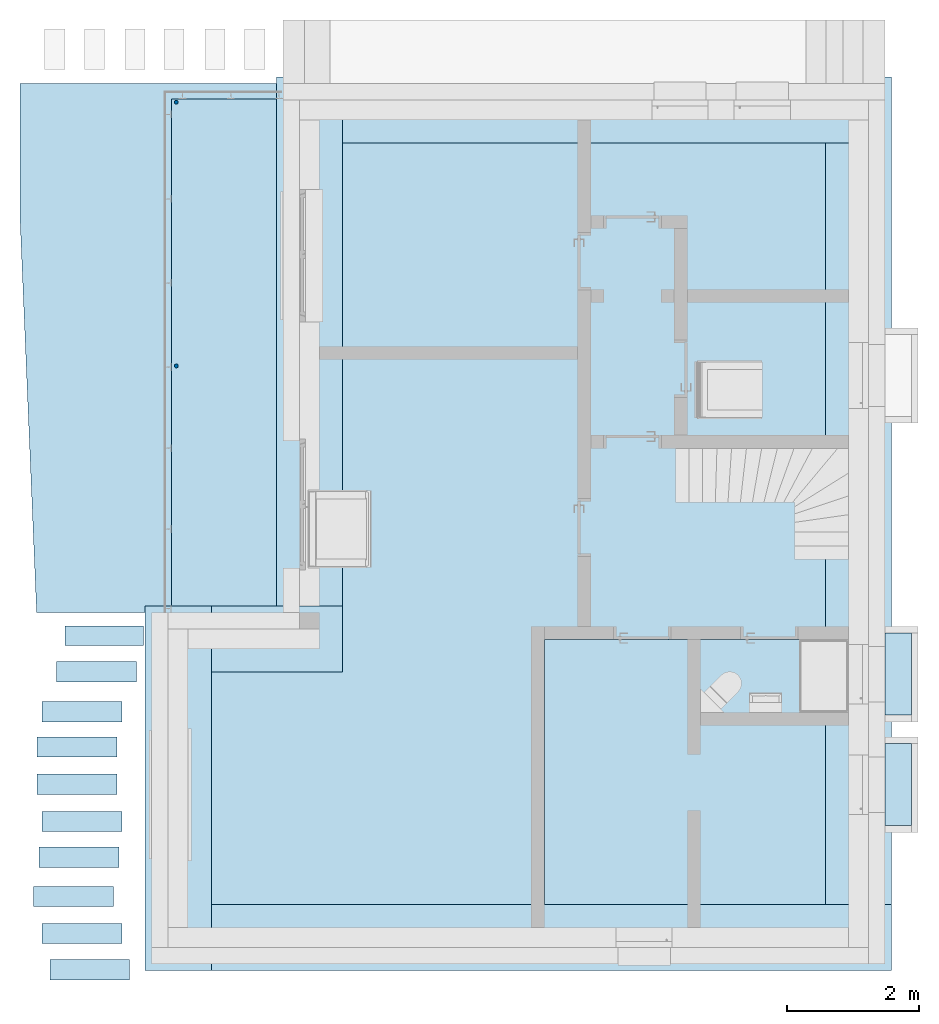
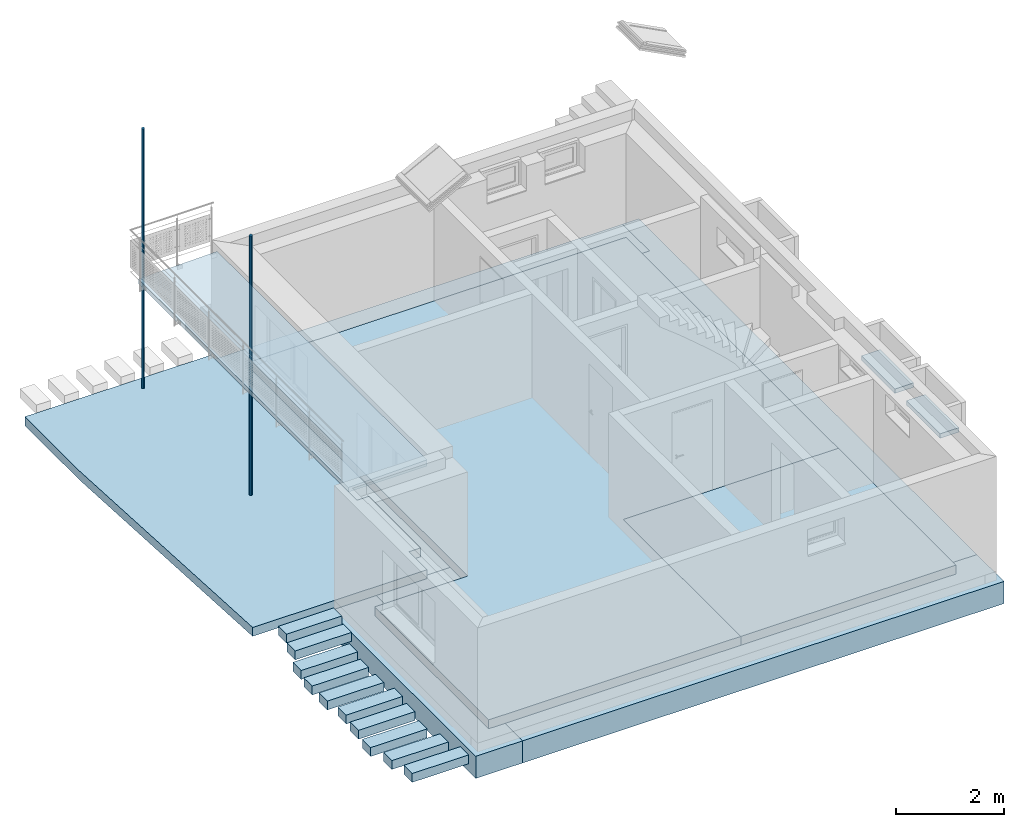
# One storey, part 1 of 22: 16 slabs, 6 footings, 2 columns.
"""IFC2X3 building model written with IfcOpenShell, lengths in metres."""

from ifc_helpers import new_model, entity, si_unit, converted_unit, derived_unit, direction, frame, frame_2d, origin, origin_2d_with_axis, place, context, subcontext, project, spatial, polyline, rectangle, circle, outline, extrude, source, transform, mapped, material, layer, layer_set, layer_usage, type_object, type_shapes, element, save


model = new_model("IFC2X3")

# Units and contexts
model_context = context("Model", 3, precision=1e-05, world=origin(), true_north=direction((6.123233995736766e-17, 1.0)))
body_context = subcontext(model_context, "Body", "Model", "MODEL_VIEW")
ifc_project = project(units=[si_unit("LENGTHUNIT", "METRE"), si_unit("AREAUNIT", "SQUARE_METRE"), si_unit("VOLUMEUNIT", "CUBIC_METRE"), si_unit("POWERUNIT", "WATT"), derived_unit("USERDEFINED", [(si_unit("MASSUNIT", "GRAM", prefix="KILO"), 1), (si_unit("TIMEUNIT", "SECOND"), -3)]), derived_unit("THERMALRESISTANCEUNIT", [(si_unit("MASSUNIT", "GRAM", prefix="KILO"), -1), (si_unit("TIMEUNIT", "SECOND"), 3), (si_unit("THERMODYNAMICTEMPERATUREUNIT", "KELVIN"), 1)]), derived_unit("USERDEFINED", [(si_unit("MASSUNIT", "GRAM", prefix="KILO"), 1), (si_unit("TIMEUNIT", "SECOND"), -2), (si_unit("THERMODYNAMICTEMPERATUREUNIT", "KELVIN"), -1)]), derived_unit("THERMALTRANSMITTANCEUNIT", [(si_unit("MASSUNIT", "GRAM", prefix="KILO"), 1), (si_unit("TIMEUNIT", "SECOND"), -3), (si_unit("THERMODYNAMICTEMPERATUREUNIT", "KELVIN"), -1)]), converted_unit("PLANEANGLEUNIT", "DEGREE", entity("IfcPlaneAngleMeasure", 0.017453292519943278), si_unit("PLANEANGLEUNIT", "RADIAN"), dimensions=[0, 0, 0, 0, 0, 0, 0]), derived_unit("MOMENTOFINERTIAUNIT", [(si_unit("LENGTHUNIT", "METRE"), 4)])], contexts=[model_context])

# Site, building, storey
site_placement = place(None, origin())
site = spatial("IfcSite", under=ifc_project, at=site_placement, Name="Default", CompositionType="ELEMENT")
building_placement = place(site_placement, origin())
building = spatial("IfcBuilding", under=site, at=building_placement, CompositionType="ELEMENT")
storey_placement = place(building_placement, origin())
storey = spatial("IfcBuildingStorey", under=building, at=storey_placement, Name="Untergeschoss", CompositionType="ELEMENT", Elevation=0.0)

# Footings
ifc_material_1 = material(Name="Ortbeton - bewehrt")
type_product = type_object("IfcTypeProduct", Name="Wandfundament:STB 1000 x 500")
footing_1_placement = place(storey_placement, frame((27.45084124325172, 15.192272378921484, -0.7000000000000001)))
element("IfcFooting", 1, at=footing_1_placement, inside=storey, type_object=type_product, material=ifc_material_1, Name="Wandfundament:STB 1000 x 500", ObjectType="Wandfundament:STB 1000 x 500", PredefinedType="STRIP_FOOTING", context=body_context, shape_type="SweptSolid", body=[
    extrude(rectangle(XDim=5.51, YDim=1.0000000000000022, at=frame_2d((-1.9984014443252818e-15, 0.1666666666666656), x_axis=(1.0, 0.0))), frame((0.6666666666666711, 2.7550000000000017, 0.0), z_axis=(0.0, 0.0, 1.0), x_axis=(0.0, 1.0, 0.0)), (0.0, 0.0, 1.0), 0.5),
])
footing_2_placement = place(storey_placement, frame((28.450841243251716, 15.192272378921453, -0.7000000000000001)))
element("IfcFooting", 2, at=footing_2_placement, inside=storey, type_object=type_product, material=ifc_material_1, Name="Wandfundament:STB 1000 x 500", ObjectType="Wandfundament:STB 1000 x 500", PredefinedType="STRIP_FOOTING", context=body_context, shape_type="SweptSolid", body=[
    extrude(rectangle(XDim=10.275878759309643, YDim=1.0, at=frame_2d((0.8275878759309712, 0.10000000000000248), x_axis=(1.0, 0.0))), frame((5.965527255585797, 0.6000000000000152, 0.0), z_axis=(0.0, 0.0, 1.0), x_axis=(-1.0, 0.0, 0.0)), (0.0, 0.0, 1.0), 0.5),
])
footing_3_placement = place(storey_placement, frame((28.450841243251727, 19.70227237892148, -0.7000000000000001)))
element("IfcFooting", 3, at=footing_3_placement, inside=storey, type_object=type_product, material=ifc_material_1, Name="Wandfundament:STB 1000 x 500", ObjectType="Wandfundament:STB 1000 x 500", PredefinedType="STRIP_FOOTING", context=body_context, shape_type="SweptSolid", body=[
    extrude(rectangle(XDim=1.9858787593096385, YDim=1.0000000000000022, at=frame_2d((-0.0014121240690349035, 0.09999999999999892), x_axis=(1.0, 0.0))), frame((0.9915272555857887, 0.6000000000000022, 0.0), z_axis=(0.0, 0.0, 1.0), x_axis=(-1.0, 0.0, 0.0)), (0.0, 0.0, 1.0), 0.5),
])
footing_4_placement = place(storey_placement, frame((29.43672000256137, 20.702272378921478, -0.7000000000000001)))
element("IfcFooting", 4, at=footing_4_placement, inside=storey, type_object=type_product, material=ifc_material_1, Name="Wandfundament:STB 1000 x 500", ObjectType="Wandfundament:STB 1000 x 500", PredefinedType="STRIP_FOOTING", context=body_context, shape_type="SweptSolid", body=[
    extrude(rectangle(XDim=7.989999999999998, YDim=0.9999999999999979, at=frame_2d((0.5990000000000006, -0.10000000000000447), x_axis=(1.0, 0.0))), frame((0.6000000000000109, 4.594000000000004, 0.0), z_axis=(0.0, 0.0, 1.0), x_axis=(0.0, -1.0, 0.0)), (0.0, 0.0, 1.0), 0.5),
])
footing_5_placement = place(storey_placement, frame((30.436720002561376, 27.69227237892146, -0.7000000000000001)))
element("IfcFooting", 5, at=footing_5_placement, inside=storey, type_object=type_product, material=ifc_material_1, Name="Wandfundament:STB 1000 x 500", ObjectType="Wandfundament:STB 1000 x 500", PredefinedType="STRIP_FOOTING", context=body_context, shape_type="SweptSolid", body=[
    extrude(rectangle(XDim=7.940000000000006, YDim=0.999999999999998, at=frame_2d((0.6640000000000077, -0.09999999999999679), x_axis=(1.0, 0.0))), frame((4.634000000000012, 0.400000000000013, 0.0), z_axis=(0.0, 0.0, 1.0), x_axis=(-1.0, 0.0, 0.0)), (0.0, 0.0, 1.0), 0.5),
])
footing_6_placement = place(storey_placement, frame((37.726720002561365, 16.19227237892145, -0.7000000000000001)))
element("IfcFooting", 6, at=footing_6_placement, inside=storey, type_object=type_product, material=ifc_material_1, Name="Wandfundament:STB 1000 x 500", ObjectType="Wandfundament:STB 1000 x 500", PredefinedType="STRIP_FOOTING", context=body_context, shape_type="SweptSolid", body=[
    extrude(outline(polyline([(-0.45000000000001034, -4.499999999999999), (-0.10000000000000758, -4.499999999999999), (-0.10000000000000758, -3.5000000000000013), (0.5499999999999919, -3.5000000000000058), (0.5500000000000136, 8.0), (-0.4499999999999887, 8.0), (-0.45000000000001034, -4.499999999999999)])), frame((0.5500000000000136, 8.0, 0.0), z_axis=(0.0, 0.0, 1.0), x_axis=(-1.0, 0.0, 0.0)), (0.0, 0.0, 1.0), 0.5),
])

# Columns
ifc_material_2 = material(Name="Ortbeton - bewehrt Verputzt")
column_type = type_object("IfcColumnType", Name="STB Stütze - rund:STB ø60", PredefinedType="COLUMN", material=ifc_material_2)
shared_shape = source(origin(), body_context, "Body", "SweptSolid", [
    extrude(circle(Radius=0.03, at=frame_2d((0.0, -4.84663372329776e-17), x_axis=(1.0, 0.0))), origin(), (0.0, 0.0, 1.0), 5.8589),
])
type_shapes(column_type, [shared_shape])
for number, where in (
    (7, (27.922057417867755, 28.309810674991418, 0.0)),
    (8, (27.922057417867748, 24.32679227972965, 0.0)),
):
    element("IfcColumn", number, at=place(storey_placement, frame(where)), inside=storey, type_object=column_type, material=ifc_material_2, Name="STB Stütze - rund:STB ø60", ObjectType="STB Stütze - rund:STB ø60", context=body_context, shape_type="MappedRepresentation", body=[
        mapped(shared_shape, transform((0.0, 0.0, 0.0), scale=1.0)),
    ])

# Slabs
ifc_material_3 = material(Name="Fußboden - Parkett Roteiche")
ifc_layer_1 = layer(ifc_material_3, 0.05)
ifc_layer_2 = layer(ifc_material_1, 0.1)
ifc_material_4 = material(Name="Dämmung - hart")
ifc_layer_3 = layer(ifc_material_4, 0.05)
ifc_layer_set_1 = layer_set([ifc_layer_1, ifc_layer_2, ifc_layer_3], Name="Geschossdecke:Geschossdecke 150 + 50")
ifc_layer_usage_1 = layer_usage(ifc_layer_set_1, "AXIS3", "POSITIVE", 0.0)
slab_type_1 = type_object("IfcSlabType", Name="Geschossdecke:Geschossdecke 150 + 50", PredefinedType="FLOOR", material=ifc_layer_set_1)
slab_1_placement = place(storey_placement, origin())
element("IfcSlab", 9, at=slab_1_placement, inside=storey, type_object=slab_type_1, material=ifc_layer_usage_1, Name="Geschossdecke:Geschossdecke 150 + 50", ObjectType="Geschossdecke:Geschossdecke 150 + 50", PredefinedType="FLOOR", context=body_context, shape_type="SweptSolid", body=[
    extrude(outline(polyline([(-5.189999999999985, -4.336167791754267), (-0.9799999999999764, -4.336167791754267), (-0.9799999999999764, -2.3502890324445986), (7.010000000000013, -2.3502890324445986), (7.0099999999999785, 5.639710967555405), (-0.8400000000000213, 5.639710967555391), (-0.8400000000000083, 1.046745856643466), (-5.190000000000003, 1.0467458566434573), (-5.189999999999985, -4.336167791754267)])), frame((32.43700903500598, 21.032272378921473, 0.0), z_axis=(0.0, 0.0, -1.0), x_axis=(0.0, 1.0, 0.0)), (0.0, 0.0, 1.0), 0.2),
])
ifc_layer_4 = layer(ifc_material_1, 0.14)
ifc_layer_set_2 = layer_set([ifc_layer_4], Name="Geschossdecke:STB 140")
ifc_layer_usage_2 = layer_usage(ifc_layer_set_2, "AXIS3", "POSITIVE", 0.0)
slab_type_2 = type_object("IfcSlabType", Name="Geschossdecke:STB 140", PredefinedType="FLOOR", material=ifc_layer_set_2)
slab_2_placement = place(storey_placement, origin())
element("IfcSlab", 10, at=slab_2_placement, inside=storey, type_object=slab_type_2, material=ifc_layer_usage_2, Name="Geschossdecke:STB 140", ObjectType="Geschossdecke:STB 140", PredefinedType="FLOOR", context=body_context, shape_type="SweptSolid", body=[
    extrude(outline(polyline([(-0.08196844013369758, -0.8604194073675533), (0.0227658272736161, -0.8604194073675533), (0.032353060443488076, -0.40272967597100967), (0.05078643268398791, 0.47727032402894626), (0.05803155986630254, 0.8231490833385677), (-0.08196844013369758, 0.8231490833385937), (-0.08196844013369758, -0.8604194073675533)])), frame((28.71357091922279, 20.602272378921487, 2.4219421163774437), z_axis=(0.0, 1.0, 0.0), x_axis=(0.0, 0.0, 1.0)), (0.0, 0.0, 1.0), 7.75999999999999),
])
ifc_material_5 = material(Name="Mauerwerk - Kalksandstein")
ifc_layer_5 = layer(ifc_material_5, 0.2)
ifc_layer_set_3 = layer_set([ifc_layer_5], Name="Geschossdecke:FB Hof")
ifc_layer_usage_3 = layer_usage(ifc_layer_set_3, "AXIS3", "POSITIVE", 0.0)
slab_type_3 = type_object("IfcSlabType", Name="Geschossdecke:FB Hof", PredefinedType="FLOOR", material=ifc_layer_set_3)
slab_3_placement = place(storey_placement, origin())
element("IfcSlab", 11, at=slab_3_placement, inside=storey, type_object=slab_type_3, material=ifc_layer_usage_3, Name="Geschossdecke:FB Hof", ObjectType="Geschossdecke:FB Hof", PredefinedType="FLOOR", context=body_context, shape_type="SweptSolid", body=[
    extrude(outline(polyline([(2.800581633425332, -2.7332683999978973), (4.827427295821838, -2.7332683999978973), (4.827427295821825, 1.2415152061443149), (-0.5725727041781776, 1.2415152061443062), (-0.5725727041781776, 1.4915152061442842), (-2.4925727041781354, 1.4915152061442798), (-2.4925727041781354, 1.241515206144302), (-3.1625727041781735, 1.241515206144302), (-3.1625727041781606, -2.4825544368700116), (2.800581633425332, -2.7332683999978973)])), frame((28.295204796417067, 23.764845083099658, 0.0), z_axis=(0.0, 0.0, -1.0), x_axis=(0.0, 1.0, 0.0)), (0.0, 0.0, 1.0), 0.2),
])
ifc_layer_usage_4 = layer_usage(ifc_layer_set_3, "AXIS3", "POSITIVE", 0.0)
slab_4_placement = place(storey_placement, frame((25.765111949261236, 15.051804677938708, -0.2)))
element("IfcSlab", 12, at=slab_4_placement, inside=storey, type_object=slab_type_3, material=ifc_layer_usage_4, Name="Geschossdecke:FB Hof", ObjectType="Geschossdecke:FB Hof", PredefinedType="FLOOR", context=body_context, shape_type="SweptSolid", body=[
    extrude(rectangle(XDim=0.2981817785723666, YDim=1.183213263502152, at=frame_2d((-0.2393668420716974, 2.52507022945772), x_axis=(0.0, -1.0))), frame((0.8309734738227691, 2.6741611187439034, 0.2), z_axis=(0.0, 0.0, -1.0), x_axis=(-1.0, 0.0, 0.0)), (0.0, 0.0, 1.0), 0.2),
])
slab_5_placement = place(storey_placement, frame((25.765111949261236, 15.051804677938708, -0.2)))
element("IfcSlab", 13, at=slab_5_placement, inside=storey, type_object=slab_type_3, material=ifc_layer_usage_4, Name="Geschossdecke:FB Hof:2", ObjectType="Geschossdecke:FB Hof", PredefinedType="FLOOR", context=body_context, shape_type="SweptSolid", body=[
    extrude(rectangle(XDim=0.30732111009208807, YDim=1.2061582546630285, at=frame_2d((-0.12156650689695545, 1.9812746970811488), x_axis=(0.0, -1.0))), frame((0.8309734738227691, 2.6741611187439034, 0.2), z_axis=(0.0, 0.0, -1.0), x_axis=(-1.0, 0.0, 0.0)), (0.0, 0.0, 1.0), 0.2),
])
slab_6_placement = place(storey_placement, frame((25.765111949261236, 15.051804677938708, -0.2)))
element("IfcSlab", 14, at=slab_6_placement, inside=storey, type_object=slab_type_3, material=ifc_layer_usage_4, Name="Geschossdecke:FB Hof:3", ObjectType="Geschossdecke:FB Hof", PredefinedType="FLOOR", context=body_context, shape_type="SweptSolid", body=[
    extrude(rectangle(XDim=0.30732111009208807, YDim=1.2061582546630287, at=frame_2d((0.09732638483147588, 1.3798714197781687), x_axis=(0.0, -1.0))), frame((0.8309734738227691, 2.6741611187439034, 0.2), z_axis=(0.0, 0.0, -1.0), x_axis=(-1.0, 0.0, 0.0)), (0.0, 0.0, 1.0), 0.2),
])
slab_7_placement = place(storey_placement, frame((25.765111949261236, 15.051804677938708, -0.2)))
element("IfcSlab", 15, at=slab_7_placement, inside=storey, type_object=slab_type_3, material=ifc_layer_usage_4, Name="Geschossdecke:FB Hof:4", ObjectType="Geschossdecke:FB Hof", PredefinedType="FLOOR", context=body_context, shape_type="SweptSolid", body=[
    extrude(rectangle(XDim=0.3073211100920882, YDim=1.2061582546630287, at=frame_2d((0.1724798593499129, 0.8451266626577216), x_axis=(0.0, -1.0))), frame((0.8309734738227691, 2.6741611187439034, 0.2), z_axis=(0.0, 0.0, -1.0), x_axis=(-1.0, 0.0, 0.0)), (0.0, 0.0, 1.0), 0.2),
])
slab_8_placement = place(storey_placement, frame((25.765111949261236, 15.051804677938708, -0.2)))
element("IfcSlab", 16, at=slab_8_placement, inside=storey, type_object=slab_type_3, material=ifc_layer_usage_4, Name="Geschossdecke:FB Hof:5", ObjectType="Geschossdecke:FB Hof", PredefinedType="FLOOR", context=body_context, shape_type="SweptSolid", body=[
    extrude(rectangle(XDim=0.30732111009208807, YDim=1.2061582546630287, at=frame_2d((0.1724798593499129, 0.2851266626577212), x_axis=(0.0, -1.0))), frame((0.8309734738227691, 2.6741611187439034, 0.2), z_axis=(0.0, 0.0, -1.0), x_axis=(-1.0, 0.0, 0.0)), (0.0, 0.0, 1.0), 0.2),
])
slab_9_placement = place(storey_placement, frame((25.765111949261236, 15.051804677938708, -0.2)))
element("IfcSlab", 17, at=slab_9_placement, inside=storey, type_object=slab_type_3, material=ifc_layer_usage_4, Name="Geschossdecke:FB Hof:6", ObjectType="Geschossdecke:FB Hof", PredefinedType="FLOOR", context=body_context, shape_type="SweptSolid", body=[
    extrude(rectangle(XDim=0.30732111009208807, YDim=1.2061582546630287, at=frame_2d((0.09732638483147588, -0.2801520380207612), x_axis=(0.0, -1.0))), frame((0.8309734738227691, 2.6741611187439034, 0.2), z_axis=(0.0, 0.0, -1.0), x_axis=(-1.0, 0.0, 0.0)), (0.0, 0.0, 1.0), 0.2),
])
slab_10_placement = place(storey_placement, frame((25.765111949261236, 15.051804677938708, -0.2)))
element("IfcSlab", 18, at=slab_10_placement, inside=storey, type_object=slab_type_3, material=ifc_layer_usage_4, Name="Geschossdecke:FB Hof:7", ObjectType="Geschossdecke:FB Hof", PredefinedType="FLOOR", context=body_context, shape_type="SweptSolid", body=[
    extrude(rectangle(XDim=0.3073211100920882, YDim=1.2061582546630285, at=frame_2d((0.14439048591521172, -0.818097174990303), x_axis=(0.0, -1.0))), frame((0.8309734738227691, 2.6741611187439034, 0.2), z_axis=(0.0, 0.0, -1.0), x_axis=(-1.0, 0.0, 0.0)), (0.0, 0.0, 1.0), 0.2),
])
slab_11_placement = place(storey_placement, frame((25.765111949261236, 15.051804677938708, -0.2)))
element("IfcSlab", 19, at=slab_11_placement, inside=storey, type_object=slab_type_3, material=ifc_layer_usage_4, Name="Geschossdecke:FB Hof:8", ObjectType="Geschossdecke:FB Hof", PredefinedType="FLOOR", context=body_context, shape_type="SweptSolid", body=[
    extrude(rectangle(XDim=0.30732111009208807, YDim=1.2061582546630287, at=frame_2d((0.22789434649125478, -1.4122580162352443), x_axis=(0.0, -1.0))), frame((0.8309734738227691, 2.6741611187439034, 0.2), z_axis=(0.0, 0.0, -1.0), x_axis=(-1.0, 0.0, 0.0)), (0.0, 0.0, 1.0), 0.2),
])
slab_12_placement = place(storey_placement, frame((25.765111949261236, 15.051804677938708, -0.2)))
element("IfcSlab", 20, at=slab_12_placement, inside=storey, type_object=slab_type_3, material=ifc_layer_usage_4, Name="Geschossdecke:FB Hof:9", ObjectType="Geschossdecke:FB Hof", PredefinedType="FLOOR", context=body_context, shape_type="SweptSolid", body=[
    extrude(rectangle(XDim=0.30732111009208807, YDim=1.2061582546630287, at=frame_2d((0.09732638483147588, -1.9727379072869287), x_axis=(0.0, -1.0))), frame((0.8309734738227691, 2.6741611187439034, 0.2), z_axis=(0.0, 0.0, -1.0), x_axis=(-1.0, 0.0, 0.0)), (0.0, 0.0, 1.0), 0.2),
])
slab_13_placement = place(storey_placement, frame((25.765111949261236, 15.051804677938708, -0.2)))
element("IfcSlab", 21, at=slab_13_placement, inside=storey, type_object=slab_type_3, material=ifc_layer_usage_4, Name="Geschossdecke:FB Hof:10", ObjectType="Geschossdecke:FB Hof", PredefinedType="FLOOR", context=body_context, shape_type="SweptSolid", body=[
    extrude(rectangle(XDim=0.30732111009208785, YDim=1.2061582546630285, at=frame_2d((-0.019104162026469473, -2.5205005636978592), x_axis=(0.0, -1.0))), frame((0.8309734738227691, 2.6741611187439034, 0.2), z_axis=(0.0, 0.0, -1.0), x_axis=(-1.0, 0.0, 0.0)), (0.0, 0.0, 1.0), 0.2),
])
ifc_layer_6 = layer(ifc_material_1, 0.1)
ifc_layer_set_4 = layer_set([ifc_layer_6], Name="Geschossdecke:STB 100")
ifc_layer_usage_5 = layer_usage(ifc_layer_set_4, "AXIS3", "POSITIVE", 0.0)
slab_type_4 = type_object("IfcSlabType", Name="Geschossdecke:STB 100", PredefinedType="FLOOR", material=ifc_layer_set_4)
slab_14_placement = place(storey_placement, origin())
element("IfcSlab", 22, at=slab_14_placement, inside=storey, type_object=slab_type_4, material=ifc_layer_usage_5, Name="Geschossdecke:STB 100", ObjectType="Geschossdecke:STB 100", PredefinedType="FLOOR", context=body_context, shape_type="SweptSolid", body=[
    extrude(rectangle(XDim=1.2400000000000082, YDim=0.39999999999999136, at=frame_2d((-2.1649348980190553e-15, 2.1649348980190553e-15), x_axis=(1.0, 0.0))), frame((38.826720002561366, 19.672272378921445, 1.8349609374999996), z_axis=(0.0, 0.0, -1.0), x_axis=(0.0, 1.0, 0.0)), (0.0, 0.0, 1.0), 0.1),
])
ifc_layer_usage_6 = layer_usage(ifc_layer_set_4, "AXIS3", "POSITIVE", 0.0)
slab_15_placement = place(storey_placement, origin())
element("IfcSlab", 23, at=slab_15_placement, inside=storey, type_object=slab_type_4, material=ifc_layer_usage_6, Name="Geschossdecke:STB 100", ObjectType="Geschossdecke:STB 100", PredefinedType="FLOOR", context=body_context, shape_type="SweptSolid", body=[
    extrude(rectangle(XDim=1.2400000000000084, YDim=0.39999999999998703, at=origin_2d_with_axis()), frame((38.82672000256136, 18.00227237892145, 1.8349609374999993), z_axis=(0.0, 0.0, -1.0), x_axis=(0.0, 1.0, 0.0)), (0.0, 0.0, 1.0), 0.1),
])
ifc_material_6 = material(Name="Fußboden - Fliese Travertin 500 x 500")
ifc_layer_7 = layer(ifc_material_6, 0.05)
ifc_layer_8 = layer(ifc_material_1, 0.2)
ifc_layer_set_5 = layer_set([ifc_layer_7, ifc_layer_8], Name="Geschossdecke:Geschossdecke 200 + 50 Bad")
ifc_layer_usage_7 = layer_usage(ifc_layer_set_5, "AXIS3", "POSITIVE", 0.0)
slab_type_5 = type_object("IfcSlabType", Name="Geschossdecke:Geschossdecke 200 + 50 Bad", PredefinedType="FLOOR", material=ifc_layer_set_5)
slab_16_placement = place(storey_placement, origin())
element("IfcSlab", 24, at=slab_16_placement, inside=storey, type_object=slab_type_5, material=ifc_layer_usage_7, Name="Geschossdecke:Geschossdecke 200 + 50 Bad", ObjectType="Geschossdecke:Geschossdecke 200 + 50 Bad", PredefinedType="FLOOR", context=body_context, shape_type="SweptSolid", body=[
    extrude(rectangle(XDim=4.35000000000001, YDim=4.5929651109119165, at=frame_2d((-1.1102230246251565e-15, 0.0), x_axis=(1.0, 0.0))), frame((35.78023744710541, 18.01727237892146, 0.0), z_axis=(0.0, 0.0, -1.0), x_axis=(0.0, 1.0, 0.0)), (0.0, 0.0, 1.0), 0.25),
])

save(model, "model.ifc")
